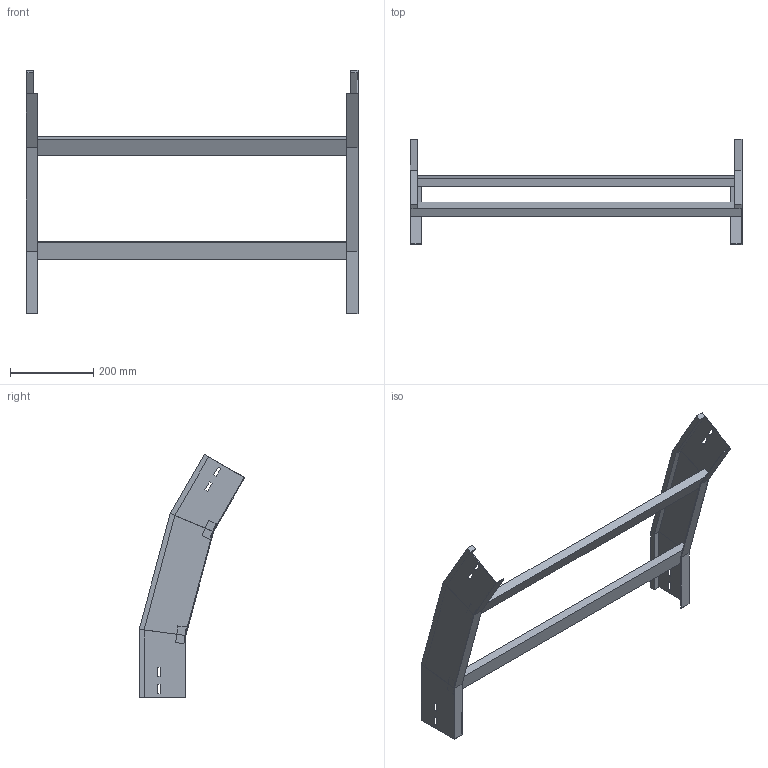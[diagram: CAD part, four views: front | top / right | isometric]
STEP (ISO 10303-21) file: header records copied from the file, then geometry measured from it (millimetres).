
FILE_DESCRIPTION (( 'STEP AP214' ), '1' );
FILE_NAME ('35B5J800.step', '2025-02-21T14:47:38', ( '' ), ( '' ), 'SwSTEP 2.0', 'SolidWorks 2023', '' );
FILE_SCHEMA (( 'AUTOMOTIVE_DESIGN' ));
Length unit declared in the file: millimetre
Products named in the file (3): LONGH.DISCESA_30°_H112.5_R500; 35B5J800; TRAVERSINO_800
Assembly tree (5 placements, depth 2):
  35B5J800
    LONGH.DISCESA_30°_H112.5_R500  x2
    TRAVERSINO_800  x3
Bounding box: 800 x 254.53 x 586.33 mm (x, y, z)
Volume: 2488840.7 mm3; surface area: 659046.8 mm2
Topology: 5 solids, 5 shells, 102 faces, 244 edges, 152 vertices
Faces by surface type: plane 102
Entity records: 1480 total; most frequent: CARTESIAN_POINT 244, ORIENTED_EDGE 232, DIRECTION 228, EDGE_CURVE 116, LINE 116, VECTOR 116, VERTEX_POINT 72, AXIS2_PLACEMENT_3D 56
